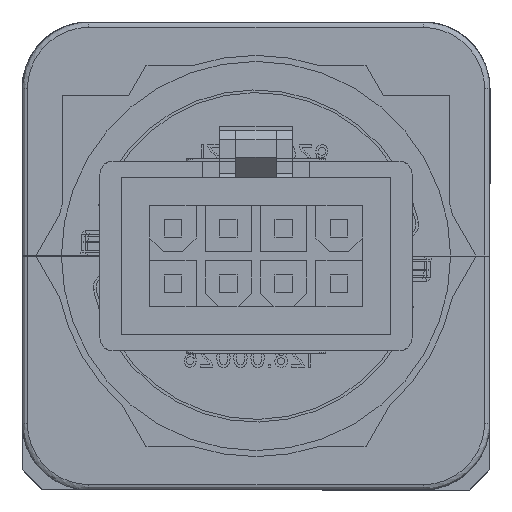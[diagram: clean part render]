
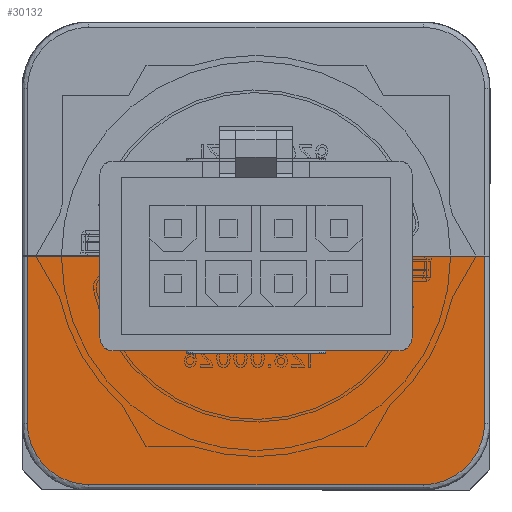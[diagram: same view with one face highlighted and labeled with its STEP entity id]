
A CAD part, front view. The second image highlights one B-rep face of the part: STEP entity #30132.
In plain terms, the highlighted planar face has unit normal (0, -1, 0) as drawn and (0, 1, 0) by its records, which use the part's own axes.
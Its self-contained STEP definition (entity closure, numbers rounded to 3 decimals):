
#129=ELLIPSE('',#34792,4.6,4.6);
#131=ELLIPSE('',#34803,4.6,4.6);
#1019=PLANE('',#36262);
#1879=LINE('',#46716,#5022);
#1881=LINE('',#46722,#5024);
#1883=LINE('',#46728,#5026);
#4110=LINE('',#53756,#7253);
#4111=LINE('',#53760,#7254);
#5022=VECTOR('',#37848,1000.);
#5024=VECTOR('',#37854,1000.);
#5026=VECTOR('',#37860,1000.);
#7253=VECTOR('',#43011,1000.);
#7254=VECTOR('',#43014,1000.);
#8626=CIRCLE('',#36263,2.9);
#15239=ORIENTED_EDGE('',*,*,#18167,.F.);
#15240=ORIENTED_EDGE('',*,*,#18174,.T.);
#15241=ORIENTED_EDGE('',*,*,#20988,.F.);
#15242=ORIENTED_EDGE('',*,*,#20989,.F.);
#15243=ORIENTED_EDGE('',*,*,#20990,.F.);
#15244=ORIENTED_EDGE('',*,*,#18177,.T.);
#15245=ORIENTED_EDGE('',*,*,#18181,.F.);
#15246=ORIENTED_EDGE('',*,*,#18171,.T.);
#18167=EDGE_CURVE('',#22464,#22465,#129,.T.);
#18171=EDGE_CURVE('',#22468,#22465,#1879,.T.);
#18174=EDGE_CURVE('',#22464,#22470,#1881,.T.);
#18177=EDGE_CURVE('',#22472,#22473,#1883,.T.);
#18181=EDGE_CURVE('',#22468,#22473,#131,.T.);
#20988=EDGE_CURVE('',#24335,#22470,#4110,.T.);
#20989=EDGE_CURVE('',#24336,#24335,#8626,.T.);
#20990=EDGE_CURVE('',#22472,#24336,#4111,.T.);
#22464=VERTEX_POINT('',#46708);
#22465=VERTEX_POINT('',#46709);
#22468=VERTEX_POINT('',#46717);
#22470=VERTEX_POINT('',#46723);
#22472=VERTEX_POINT('',#46729);
#22473=VERTEX_POINT('',#46730);
#24335=VERTEX_POINT('',#53757);
#24336=VERTEX_POINT('',#53759);
#26636=EDGE_LOOP('',(#15239,#15240,#15241,#15242,#15243,#15244,#15245,#15246));
#28435=FACE_BOUND('',#26636,.T.);
#30132=ADVANCED_FACE('',(#28435),#1019,.F.);
#34792=AXIS2_PLACEMENT_3D('',#46707,#37838,#37839);
#34803=AXIS2_PLACEMENT_3D('',#46751,#37866,#37867);
#36262=AXIS2_PLACEMENT_3D('',#53755,#43009,#43010);
#36263=AXIS2_PLACEMENT_3D('',#53758,#43012,#43013);
#37838=DIRECTION('',(0.,-1.,0.));
#37839=DIRECTION('',(-0.707,0.,-0.707));
#37848=DIRECTION('',(-1.,0.,0.));
#37854=DIRECTION('',(0.,0.,1.));
#37860=DIRECTION('',(0.,0.,-1.));
#37866=DIRECTION('',(0.,-1.,0.));
#37867=DIRECTION('',(0.707,0.,-0.707));
#43009=DIRECTION('',(0.,-1.,0.));
#43010=DIRECTION('',(-1.,0.,0.));
#43011=DIRECTION('',(-1.,0.,0.));
#43012=DIRECTION('',(0.,1.,0.));
#43013=DIRECTION('',(0.,0.,-1.));
#43014=DIRECTION('',(-1.,0.,0.));
#46707=CARTESIAN_POINT('',(-12.494,0.,-12.494));
#46708=CARTESIAN_POINT('',(-17.094,0.,-12.494));
#46709=CARTESIAN_POINT('',(-12.494,0.,-17.094));
#46716=CARTESIAN_POINT('',(0.,0.,-17.094));
#46717=CARTESIAN_POINT('',(12.494,0.,-17.094));
#46722=CARTESIAN_POINT('',(-17.094,0.,0.));
#46723=CARTESIAN_POINT('',(-17.094,0.,0.));
#46728=CARTESIAN_POINT('',(17.094,0.,0.));
#46729=CARTESIAN_POINT('',(17.094,0.,0.));
#46730=CARTESIAN_POINT('',(17.094,0.,-12.494));
#46751=CARTESIAN_POINT('',(12.494,0.,-12.494));
#53755=CARTESIAN_POINT('',(-4954.5,0.,12658.5));
#53756=CARTESIAN_POINT('',(14755.4,0.,0.));
#53757=CARTESIAN_POINT('',(-2.9,0.,0.));
#53758=CARTESIAN_POINT('',(0.,0.,0.));
#53759=CARTESIAN_POINT('',(2.9,0.,0.));
#53760=CARTESIAN_POINT('',(0.,0.,0.));
